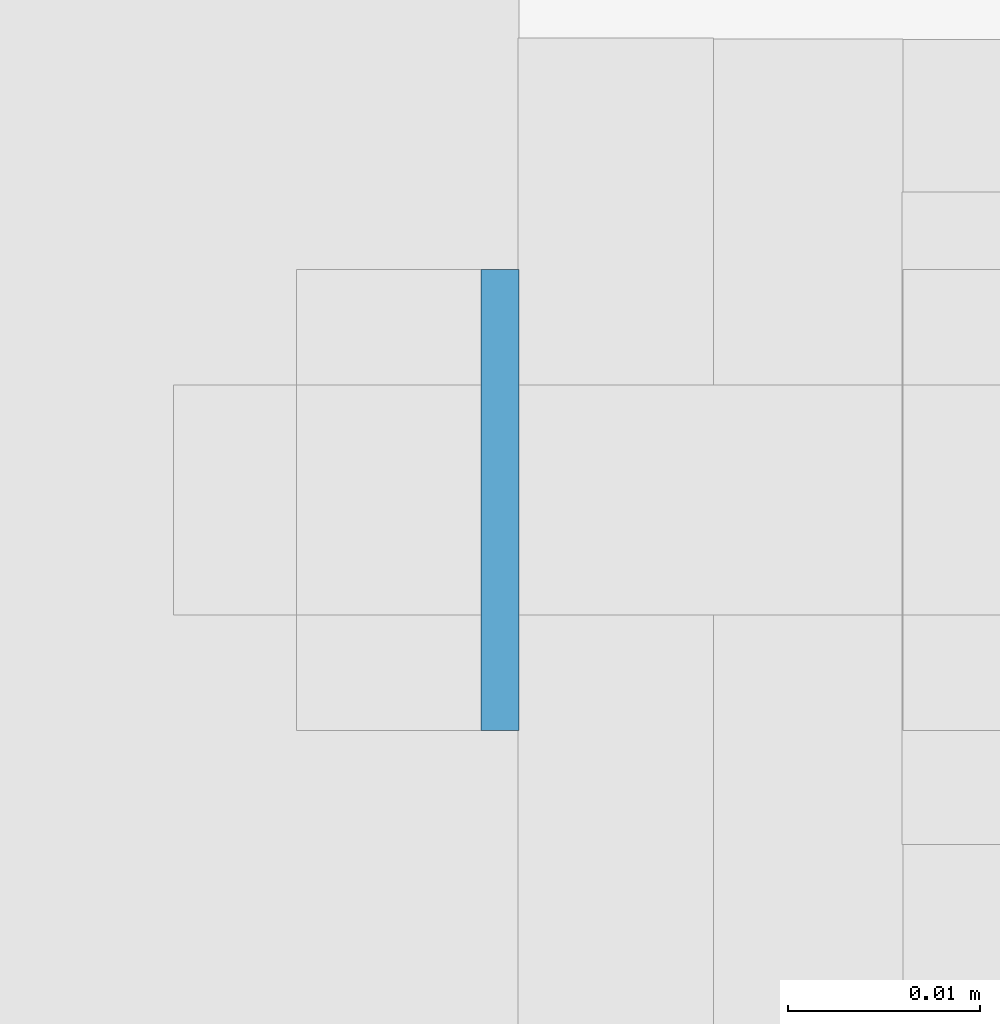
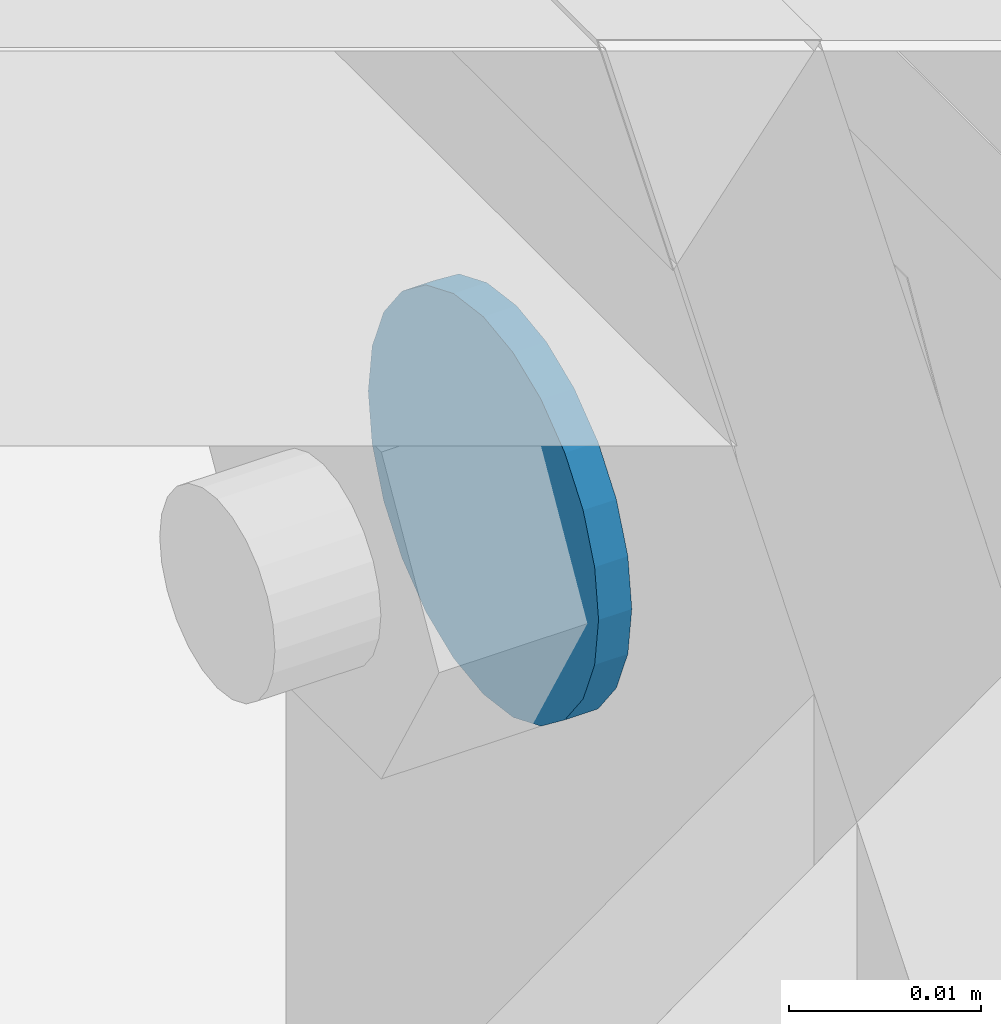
# One storey, part 32 of 66: 1 mechanical fastener.
"""IFC4 building model written with IfcOpenShell, lengths in metres."""

from ifc_helpers import new_model, si_unit, frame, origin_with_axes, place, context, project, spatial, polyline, outline, extrude, type_object, element, save


model = new_model("IFC4")

# Units and contexts
model_context = context("Model", 3, precision=1e-05, world=origin_with_axes())
ifc_project = project(units=[si_unit("LENGTHUNIT", "METRE"), si_unit("AREAUNIT", "SQUARE_METRE"), si_unit("VOLUMEUNIT", "CUBIC_METRE"), si_unit("MASSUNIT", "GRAM", prefix="KILO"), si_unit("TIMEUNIT", "SECOND"), si_unit("PLANEANGLEUNIT", "RADIAN"), si_unit("SOLIDANGLEUNIT", "STERADIAN"), si_unit("THERMODYNAMICTEMPERATUREUNIT", "DEGREE_CELSIUS")], contexts=[model_context])

# Site, building, storey
placement_1 = place(None, origin_with_axes())
site = spatial("IfcSite", under=ifc_project, at=placement_1, Name="Italia", CompositionType="ELEMENT")
building = spatial("IfcBuilding", under=site, at=placement_1, Name="Uffici", CompositionType="ELEMENT")
storey_placement = place(None, frame((0.0, 0.0, 3.299999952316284), z_axis=(0.0, 0.0, 1.0), x_axis=(1.0, 0.0, 0.0)))
storey = spatial("IfcBuildingStorey", under=building, at=storey_placement, Name="Storey 1", CompositionType="ELEMENT", Elevation=3.299999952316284)

# Mechanical fastener
mechanical_fastener_type = type_object("IfcMechanicalFastenerType", Name="Collegamento -002_-003", PredefinedType="BOLT")
placement_2 = place(placement_1, origin_with_axes())
mechanical_fastener_placement = place(placement_2, origin_with_axes())
element("IfcMechanicalFastener", 1, at=mechanical_fastener_placement, inside=storey, type_object=mechanical_fastener_type, Name="Collegamento -002_-003", NominalDiameter=0.024, context=model_context, shape_type="SweptSolid", body=[
    extrude(outline(polyline([(0.0, 0.0), (-0.000408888, -0.00310588), (-0.00160766, -0.00600004), (-0.00351465, -0.00848532), (-0.00599992, -0.0103922), (-0.00889409, -0.0115912), (-0.012, -0.0120001), (-0.0151058, -0.0115912), (-0.018, -0.0103922), (-0.0204853, -0.00848532), (-0.0223923, -0.00600004), (-0.023591, -0.00310588), (-0.0239999, 0.0), (-0.023591, 0.00310588), (-0.0223923, 0.00600004), (-0.0204853, 0.00848532), (-0.018, 0.0103922), (-0.0151058, 0.0115912), (-0.012, 0.0120001), (-0.00889409, 0.0115912), (-0.00599992, 0.0103922), (-0.00351465, 0.00848532), (-0.00160766, 0.00600004), (-0.000408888, 0.00310588), (0.0, 0.0)])), frame((3.323, 1.84467, 3.266), z_axis=(1.0, 0.0, 0.0), x_axis=(0.0, 1.0, 0.0)), (0.0, 0.0, 1.0), 0.00200009),
])

save(model, "model.ifc")
